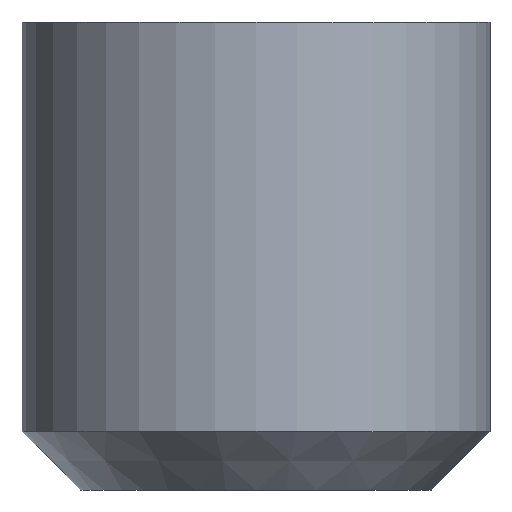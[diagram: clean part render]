
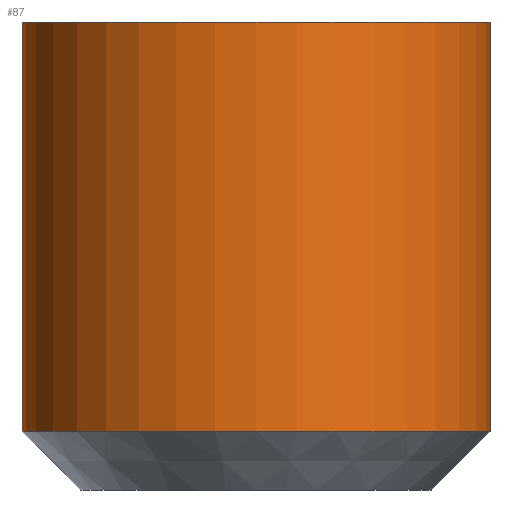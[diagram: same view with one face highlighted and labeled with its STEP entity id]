
A CAD part, left-side view. The second image highlights one B-rep face of the part: STEP entity #87.
In plain terms, the highlighted cylindrical face has radius 4 mm (diameter 8 mm), a full revolution.
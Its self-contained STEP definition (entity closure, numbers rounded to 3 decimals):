
#18=CYLINDRICAL_SURFACE('',#116,4.);
#21=FACE_OUTER_BOUND('',#27,.T.);
#27=EDGE_LOOP('',(#69,#70,#71,#72,#73));
#34=LINE('',#165,#38);
#38=VECTOR('',#137,4.);
#42=CIRCLE('',#114,4.);
#43=CIRCLE('',#115,4.);
#44=CIRCLE('',#117,4.);
#48=VERTEX_POINT('',#158);
#49=VERTEX_POINT('',#160);
#50=VERTEX_POINT('',#164);
#56=EDGE_CURVE('',#48,#49,#42,.T.);
#57=EDGE_CURVE('',#49,#48,#43,.T.);
#58=EDGE_CURVE('',#49,#50,#34,.T.);
#59=EDGE_CURVE('',#50,#50,#44,.T.);
#69=ORIENTED_EDGE('',*,*,#56,.F.);
#70=ORIENTED_EDGE('',*,*,#57,.F.);
#71=ORIENTED_EDGE('',*,*,#58,.T.);
#72=ORIENTED_EDGE('',*,*,#59,.F.);
#73=ORIENTED_EDGE('',*,*,#58,.F.);
#87=ADVANCED_FACE('',(#21),#18,.T.);
#114=AXIS2_PLACEMENT_3D('',#161,#131,#132);
#115=AXIS2_PLACEMENT_3D('',#162,#133,#134);
#116=AXIS2_PLACEMENT_3D('',#163,#135,#136);
#117=AXIS2_PLACEMENT_3D('',#166,#138,#139);
#131=DIRECTION('center_axis',(0.,0.,-1.));
#132=DIRECTION('ref_axis',(-1.,0.,0.));
#133=DIRECTION('center_axis',(0.,0.,-1.));
#134=DIRECTION('ref_axis',(-1.,0.,0.));
#135=DIRECTION('center_axis',(0.,0.,-1.));
#136=DIRECTION('ref_axis',(1.,0.,0.));
#137=DIRECTION('',(0.,0.,1.));
#138=DIRECTION('center_axis',(0.,0.,1.));
#139=DIRECTION('ref_axis',(1.,0.,0.));
#158=CARTESIAN_POINT('',(4.,0.,-7.));
#160=CARTESIAN_POINT('',(-4.,0.,-7.));
#161=CARTESIAN_POINT('Origin',(0.,0.,-7.));
#162=CARTESIAN_POINT('Origin',(0.,0.,-7.));
#163=CARTESIAN_POINT('Origin',(0.,0.,0.));
#164=CARTESIAN_POINT('',(-4.,0.,0.));
#165=CARTESIAN_POINT('',(-4.,0.,0.));
#166=CARTESIAN_POINT('Origin',(0.,0.,0.));
